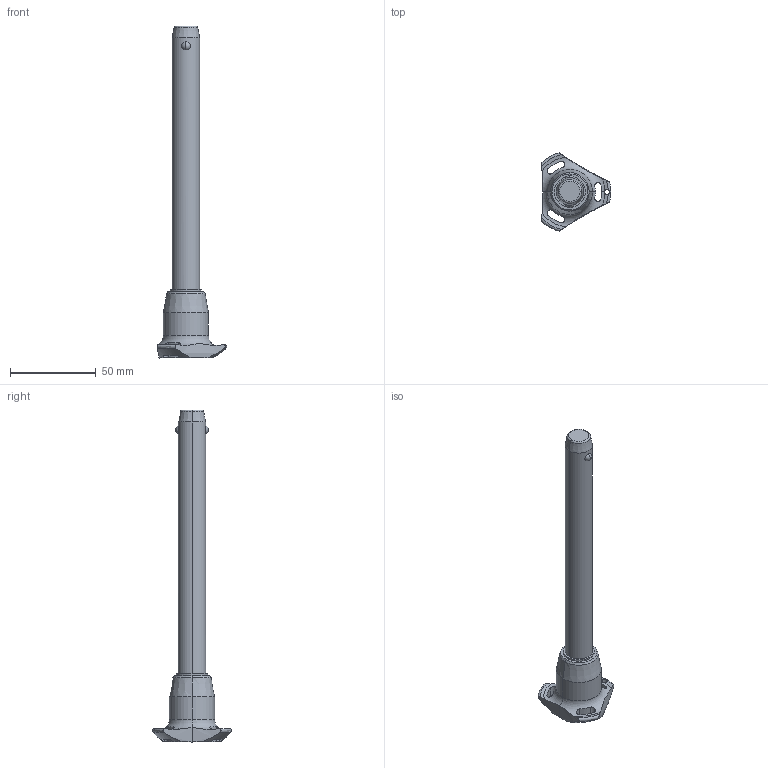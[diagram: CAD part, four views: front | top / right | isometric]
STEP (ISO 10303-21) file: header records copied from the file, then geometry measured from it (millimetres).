
FILE_DESCRIPTION (( 'STEP AP203' ), '1' );
FILE_NAME ('QR1724.M16-140-S.step', '2025-11-12T13:05:53', ( '' ), ( '' ), 'SwSTEP 2.0', 'SolidWorks 2019', '' );
FILE_SCHEMA (( 'CONFIG_CONTROL_DESIGN' ));
Length unit declared in the file: millimetre
Products named in the file (1): QR1724.M16-140-S
Bounding box: 40.5 x 45.88 x 193.7 mm (x, y, z)
Volume: 53245.3 mm3; surface area: 13695.7 mm2
Topology: 1 solids, 1 shells, 65 faces, 178 edges, 113 vertices
Faces by surface type: cylinder 30, cone 14, torus 11, sphere 6, plane 4
Entity records: 2870 total; most frequent: CARTESIAN_POINT 1181, ORIENTED_EDGE 356, DIRECTION 329, EDGE_CURVE 178, AXIS2_PLACEMENT_3D 147, VERTEX_POINT 113, CIRCLE 81, EDGE_LOOP 71
